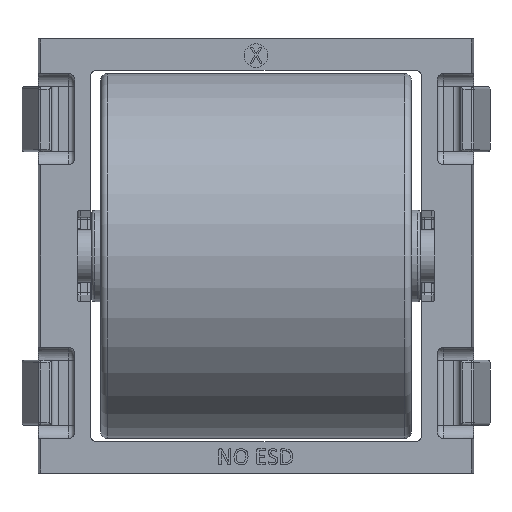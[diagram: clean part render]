
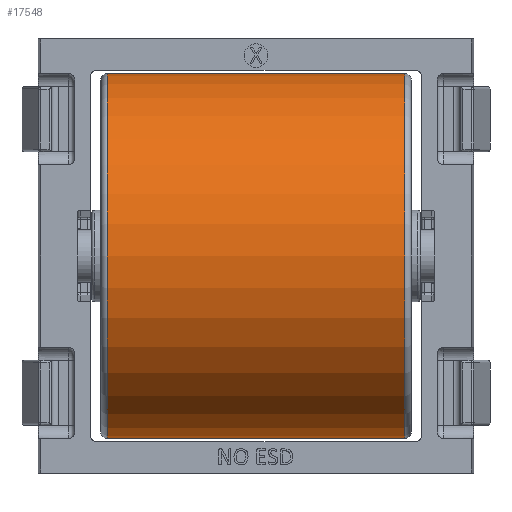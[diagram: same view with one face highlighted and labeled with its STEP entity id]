
A CAD part, front view. The second image highlights one B-rep face of the part: STEP entity #17548.
In plain terms, the highlighted cylindrical face has radius 14 mm (diameter 28 mm), a partial arc.
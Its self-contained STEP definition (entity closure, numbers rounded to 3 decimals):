
#18 = DIRECTION ( 'NONE',  ( 1., 0., 0. ) ) ;
#849 = CIRCLE ( 'NONE', #9164, 14. ) ;
#1807 = VERTEX_POINT ( 'NONE', #3717 ) ;
#2685 = CARTESIAN_POINT ( 'NONE',  ( 0., 0., -11.4 ) ) ;
#2712 = CARTESIAN_POINT ( 'NONE',  ( -14., 0., 11.4 ) ) ;
#2933 = DIRECTION ( 'NONE',  ( 0., 0., -1. ) ) ;
#3717 = CARTESIAN_POINT ( 'NONE',  ( 14., 0., 11.4 ) ) ;
#4256 = CIRCLE ( 'NONE', #21910, 14. ) ;
#4584 = VECTOR ( 'NONE', #2933, 1000. ) ;
#4887 = CYLINDRICAL_SURFACE ( 'NONE', #10541, 14. ) ;
#4918 = DIRECTION ( 'NONE',  ( 1., 0., 0. ) ) ;
#5605 = FACE_OUTER_BOUND ( 'NONE', #16594, .T. ) ;
#6227 = CARTESIAN_POINT ( 'NONE',  ( -14., 0., -11.4 ) ) ;
#7233 = DIRECTION ( 'NONE',  ( -1., 0., 0. ) ) ;
#8453 = EDGE_CURVE ( 'NONE', #12758, #14391, #16620, .T. ) ;
#9109 = VECTOR ( 'NONE', #11504, 1000. ) ;
#9164 = AXIS2_PLACEMENT_3D ( 'NONE', #2685, #18496, #4918 ) ;
#10061 = EDGE_CURVE ( 'NONE', #1807, #15109, #21145, .T. ) ;
#10541 = AXIS2_PLACEMENT_3D ( 'NONE', #27428, #22990, #7233 ) ;
#11504 = DIRECTION ( 'NONE',  ( 0., 0., -1. ) ) ;
#11526 = ORIENTED_EDGE ( 'NONE', *, *, #8453, .T. ) ;
#12688 = ORIENTED_EDGE ( 'NONE', *, *, #10061, .F. ) ;
#12758 = VERTEX_POINT ( 'NONE', #2712 ) ;
#13543 = DIRECTION ( 'NONE',  ( 0., 0., -1. ) ) ;
#14391 = VERTEX_POINT ( 'NONE', #6227 ) ;
#14598 = EDGE_CURVE ( 'NONE', #14391, #15109, #849, .T. ) ;
#15109 = VERTEX_POINT ( 'NONE', #25243 ) ;
#16546 = EDGE_CURVE ( 'NONE', #1807, #12758, #4256, .T. ) ;
#16594 = EDGE_LOOP ( 'NONE', ( #12688, #20279, #11526, #22821 ) ) ;
#16620 = LINE ( 'NONE', #18722, #4584 ) ;
#17548 = ADVANCED_FACE ( 'NONE', ( #5605 ), #4887, .T. ) ;
#18496 = DIRECTION ( 'NONE',  ( 0., 0., 1. ) ) ;
#18722 = CARTESIAN_POINT ( 'NONE',  ( -14., 0., 11.9 ) ) ;
#20279 = ORIENTED_EDGE ( 'NONE', *, *, #16546, .T. ) ;
#21145 = LINE ( 'NONE', #25038, #9109 ) ;
#21910 = AXIS2_PLACEMENT_3D ( 'NONE', #27024, #13543, #18 ) ;
#22821 = ORIENTED_EDGE ( 'NONE', *, *, #14598, .T. ) ;
#22990 = DIRECTION ( 'NONE',  ( 0., 0., -1. ) ) ;
#25038 = CARTESIAN_POINT ( 'NONE',  ( 14., 0., 11.9 ) ) ;
#25243 = CARTESIAN_POINT ( 'NONE',  ( 14., 0., -11.4 ) ) ;
#27024 = CARTESIAN_POINT ( 'NONE',  ( 0., 0., 11.4 ) ) ;
#27428 = CARTESIAN_POINT ( 'NONE',  ( 0., 0., 11.9 ) ) ;
